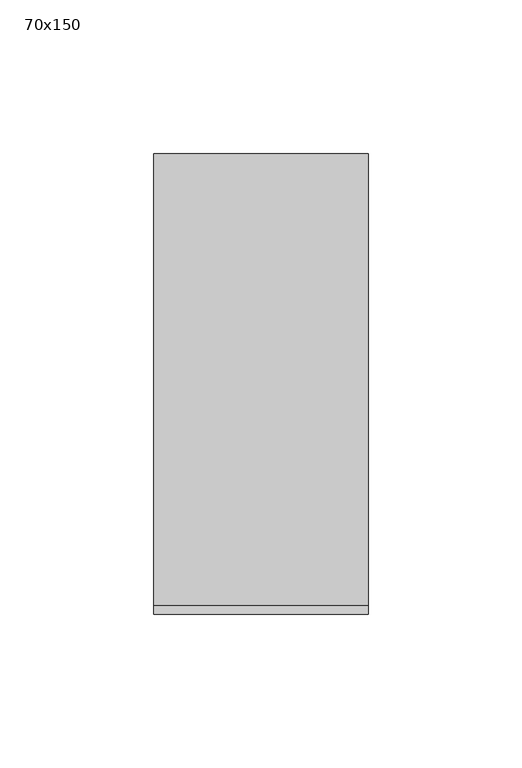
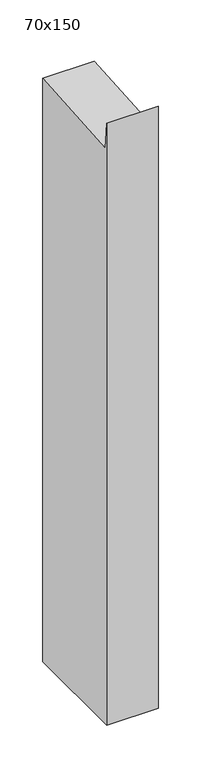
"""IFC4 building model written with IfcOpenShell, lengths in millimetres: member geometry, 長方形のマリオン : 70x150."""

from ifc_helpers import new_model, si_unit, frame, origin, place, context, project, spatial, polyline, outline, extrude, source, transform, mapped, element, save


def member_70x150_827824a2(model_context):
    return source(origin(), model_context, "Body", "SweptSolid", [
        extrude(outline(polyline([(-75.0, 32.1328391), (-72.1089919, -5.623802), (75.0, 5.6402638), (75.0, -830.0), (-75.0, -830.0), (-75.0, 32.1328391)])), frame((-70.0, 0.0, 0.0), z_axis=(1.0, 0.0, 0.0), x_axis=(0.0, 1.0, 0.0)), (0.0, 0.0, 1.0), 70.0),
    ])


if __name__ == "__main__":
    model = new_model("IFC4")
    model_context = context("Model", 3, world=origin())
    ifc_project = project(units=[si_unit("LENGTHUNIT", "METRE", prefix="MILLI")], contexts=[model_context])
    site = spatial("IfcSite", under=ifc_project)
    building = spatial("IfcBuilding", under=site)
    placement = place(None, origin())
    member_70x150_shape = member_70x150_827824a2(model_context)
    element("IfcMember", 1, ObjectType="長方形のマリオン : 70x150", at=placement, inside=building, context=model_context, shape_type="MappedRepresentation", body=[
        mapped(member_70x150_shape, transform((0.0, 0.0, 0.0), x_axis=(1.0, 0.0, 0.0), y_axis=(0.0, 1.0, 0.0), z_axis=(0.0, 0.0, 1.0))),
    ])
    save(model, "model.ifc")
